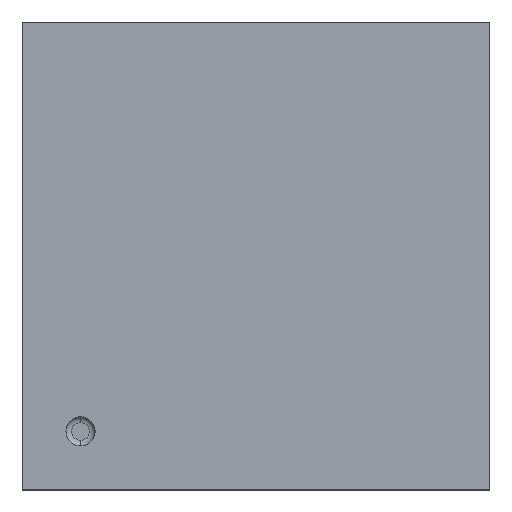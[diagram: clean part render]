
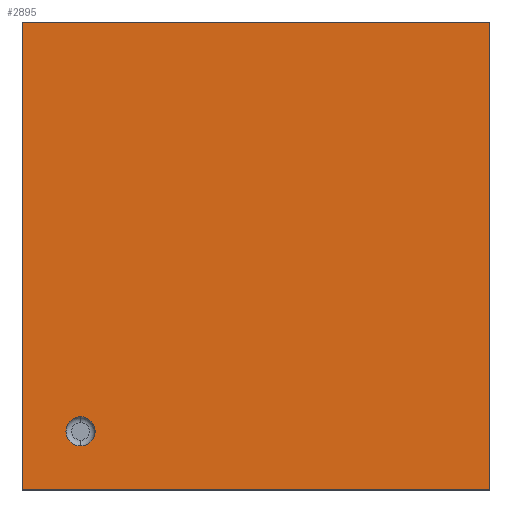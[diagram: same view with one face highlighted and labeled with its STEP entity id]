
A CAD part, top view. The second image highlights one B-rep face of the part: STEP entity #2895.
In plain terms, the highlighted planar face has unit normal (0, 0, 1).
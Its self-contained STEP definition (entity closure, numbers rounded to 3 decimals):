
#2717 = CARTESIAN_POINT ( 'NONE',  ( -1.5, -1.375, 0.8 ) ) ;
#2718 = VERTEX_POINT ( 'NONE', #2717 ) ;
#2726 = CARTESIAN_POINT ( 'NONE',  ( -1.5, -1.625, 0.8 ) ) ;
#2727 = VERTEX_POINT ( 'NONE', #2726 ) ;
#2728 = CARTESIAN_POINT ( 'NONE',  ( -1.5, -1.5, 0.8 ) ) ;
#2729 = DIRECTION ( 'NONE',  ( 0., 0., 1. ) ) ;
#2730 = DIRECTION ( 'NONE',  ( 0., -1., 0. ) ) ;
#2731 = AXIS2_PLACEMENT_3D ( 'NONE', #2728, #2729, #2730 ) ;
#2732 = CIRCLE ( 'NONE', #2731, 0.125) ;
#2733 = EDGE_CURVE ( 'NONE', #2718, #2727, #2732, .T. ) ;
#2760 = CARTESIAN_POINT ( 'NONE',  ( -2., -2., 0.8 ) ) ;
#2761 = VERTEX_POINT ( 'NONE', #2760 ) ;
#2768 = CARTESIAN_POINT ( 'NONE',  ( -2., 2., 0.8 ) ) ;
#2769 = VERTEX_POINT ( 'NONE', #2768 ) ;
#2770 = CARTESIAN_POINT ( 'NONE',  ( -2., -2., 0.8 ) ) ;
#2771 = DIRECTION ( 'NONE',  ( 0., -1., 0. ) ) ;
#2772 = VECTOR ( 'NONE', #2771, 1000. ) ;
#2773 = LINE ( 'NONE', #2770, #2772 ) ;
#2774 = EDGE_CURVE ( 'NONE', #2769, #2761, #2773, .T. ) ;
#2798 = CARTESIAN_POINT ( 'NONE',  ( 2., -2., 0.8 ) ) ;
#2799 = VERTEX_POINT ( 'NONE', #2798 ) ;
#2806 = CARTESIAN_POINT ( 'NONE',  ( 2., -2., 0.8 ) ) ;
#2807 = DIRECTION ( 'NONE',  ( 1., 0., 0. ) ) ;
#2808 = VECTOR ( 'NONE', #2807, 1000. ) ;
#2809 = LINE ( 'NONE', #2806, #2808 ) ;
#2810 = EDGE_CURVE ( 'NONE', #2761, #2799, #2809, .T. ) ;
#2829 = CARTESIAN_POINT ( 'NONE',  ( 2., 2., 0.8 ) ) ;
#2830 = VERTEX_POINT ( 'NONE', #2829 ) ;
#2837 = CARTESIAN_POINT ( 'NONE',  ( 2., -2., 0.8 ) ) ;
#2838 = DIRECTION ( 'NONE',  ( 0., 1., 0. ) ) ;
#2839 = VECTOR ( 'NONE', #2838, 1000. ) ;
#2840 = LINE ( 'NONE', #2837, #2839 ) ;
#2841 = EDGE_CURVE ( 'NONE', #2799, #2830, #2840, .T. ) ;
#2859 = CARTESIAN_POINT ( 'NONE',  ( 2., 2., 0.8 ) ) ;
#2860 = DIRECTION ( 'NONE',  ( -1., 0., 0. ) ) ;
#2861 = VECTOR ( 'NONE', #2860, 1000. ) ;
#2862 = LINE ( 'NONE', #2859, #2861 ) ;
#2863 = EDGE_CURVE ( 'NONE', #2830, #2769, #2862, .T. ) ;
#2874 = CARTESIAN_POINT ( 'NONE',  ( -1.5, -1.5, 0.8 ) ) ;
#2875 = DIRECTION ( 'NONE',  ( 0., 0., 1. ) ) ;
#2876 = DIRECTION ( 'NONE',  ( 0., -1., 0. ) ) ;
#2877 = AXIS2_PLACEMENT_3D ( 'NONE', #2874, #2875, #2876 ) ;
#2878 = CIRCLE ( 'NONE', #2877, 0.125) ;
#2879 = EDGE_CURVE ( 'NONE', #2727, #2718, #2878, .T. ) ;
#2880 = ORIENTED_EDGE ( 'NONE', *, *, #2879, .F. ) ;
#2881 = ORIENTED_EDGE ( 'NONE', *, *, #2733, .F. ) ;
#2882 = EDGE_LOOP ( 'NONE', ( #2880, #2881 ) ) ;
#2883 = FACE_BOUND ( 'NONE', #2882, .T. ) ;
#2884 = ORIENTED_EDGE ( 'NONE', *, *, #2774, .T. ) ;
#2885 = ORIENTED_EDGE ( 'NONE', *, *, #2810, .T. ) ;
#2886 = ORIENTED_EDGE ( 'NONE', *, *, #2841, .T. ) ;
#2887 = ORIENTED_EDGE ( 'NONE', *, *, #2863, .T. ) ;
#2888 = EDGE_LOOP ( 'NONE', ( #2884, #2885, #2886, #2887 ) ) ;
#2889 = FACE_OUTER_BOUND ( 'NONE', #2888, .T. ) ;
#2890 = CARTESIAN_POINT ( 'NONE',  ( 0., 0., 0.8 ) ) ;
#2891 = DIRECTION ( 'NONE',  ( 0., 0., 1. ) ) ;
#2892 = DIRECTION ( 'NONE',  ( 0., -1., 0. ) ) ;
#2893 = AXIS2_PLACEMENT_3D ( 'NONE', #2890, #2891, #2892 ) ;
#2894 = PLANE ( 'NONE', #2893 ) ;
#2895 = ADVANCED_FACE ( 'NONE', ( #2883, #2889 ), #2894, .T. ) ;
